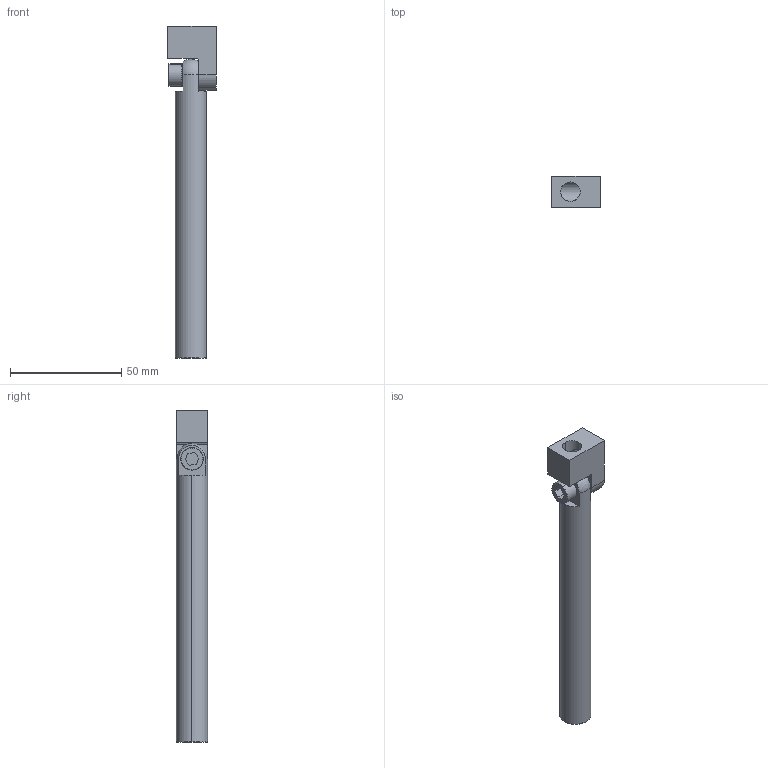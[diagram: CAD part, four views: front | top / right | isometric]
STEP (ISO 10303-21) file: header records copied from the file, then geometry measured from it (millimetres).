
FILE_DESCRIPTION (( 'STEP AP214' ), '1' );
FILE_NAME ('SEAV-G1814L120T.STEP', '2023-02-02T06:43:16', ( 'Windows User' ), ( 'P R C' ), 'SwSTEP 2.0', 'SolidWorks 2019', '' );
FILE_SCHEMA (( 'AUTOMOTIVE_DESIGN' ));
Length unit declared in the file: millimetre
Products named in the file (5): PTC-M6L14; PTS-M6; SEAV-G1814L120.1; SEAV-G1814L120.2; SEAV-G1814L120T
Assembly tree (4 placements, depth 2):
  SEAV-G1814L120T
    SEAV-G1814L120.1
    SEAV-G1814L120.2
    PTC-M6L14
    PTS-M6
Bounding box: 22 x 14 x 149.3 mm (x, y, z)
Volume: 18644.4 mm3; surface area: 12653.4 mm2
Topology: 4 solids, 4 shells, 220 faces, 625 edges, 410 vertices
Faces by surface type: plane 183, cylinder 23, cone 12, sphere 2
Entity records: 7373 total; most frequent: DIRECTION 1293, CARTESIAN_POINT 1266, ORIENTED_EDGE 1238, EDGE_CURVE 619, AXIS2_PLACEMENT_3D 449, VERTEX_POINT 408, VECTOR 395, LINE 395
